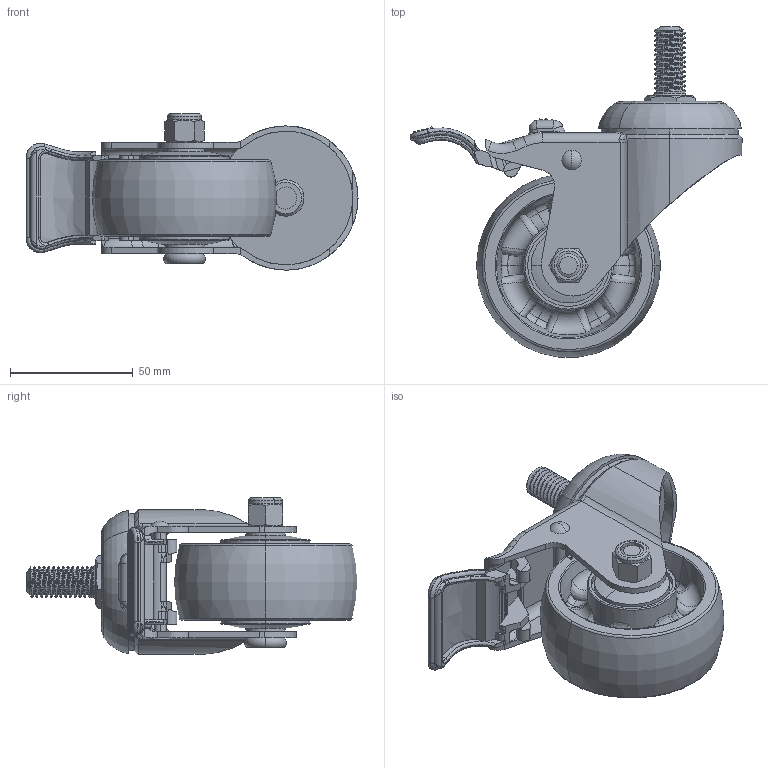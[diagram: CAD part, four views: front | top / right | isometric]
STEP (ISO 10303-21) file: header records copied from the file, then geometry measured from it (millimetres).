
FILE_DESCRIPTION (( 'STEP AP203' ), '1' );
FILE_NAME ('4111603004050- 7.STEP', '2026-01-15T02:34:34', ( '' ), ( '' ), 'SwSTEP 2.0', 'SolidWorks 2019', '' );
FILE_SCHEMA (( 'CONFIG_CONTROL_DESIGN' ));
Length unit declared in the file: millimetre
Products named in the file (1): 4111603004050- 7
Bounding box: 135.31 x 134.59 x 63.7 mm (x, y, z)
Volume: 176012.1 mm3; surface area: 68877.6 mm2
Topology: 7 solids, 8 shells, 808 faces, 2103 edges, 1334 vertices
Faces by surface type: plane 278, cylinder 202, bspline 190, torus 102, cone 22, sphere 14
Entity records: 42771 total; most frequent: CARTESIAN_POINT 24825, ORIENTED_EDGE 4182, DIRECTION 3106, EDGE_CURVE 2091, VERTEX_POINT 1334, AXIS2_PLACEMENT_3D 1158, EDGE_LOOP 861, FACE_OUTER_BOUND 808
